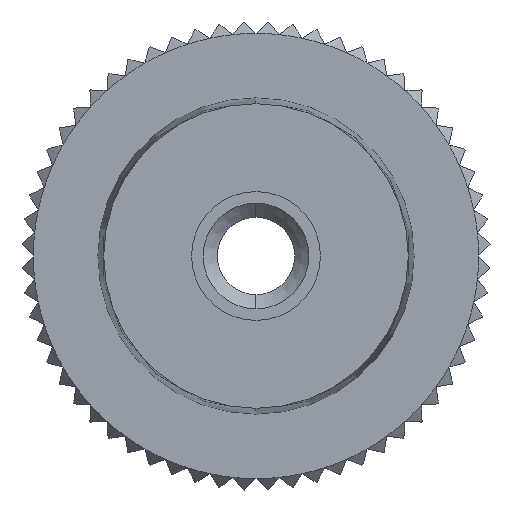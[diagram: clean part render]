
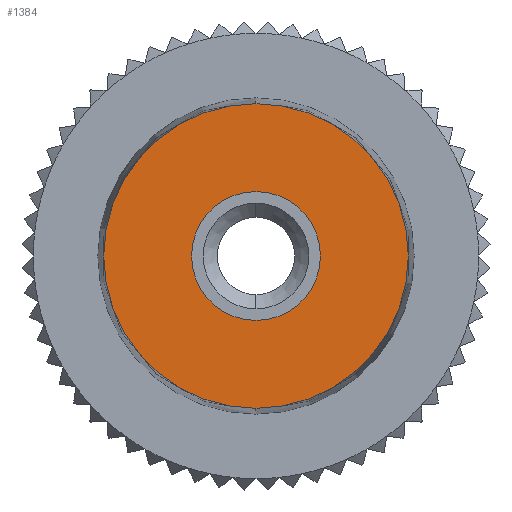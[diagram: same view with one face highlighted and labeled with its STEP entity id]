
A CAD part, front view. The second image highlights one B-rep face of the part: STEP entity #1384.
In plain terms, the highlighted planar face has unit normal (0, -1, 0).
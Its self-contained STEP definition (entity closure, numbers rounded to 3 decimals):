
#107 = VERTEX_POINT ( 'NONE', #2823 ) ;
#110 = VERTEX_POINT ( 'NONE', #2814 ) ;
#113 = EDGE_CURVE ( 'NONE', #110, #107, #2807, .T. ) ;
#174 = VERTEX_POINT ( 'NONE', #2928 ) ;
#178 = VERTEX_POINT ( 'NONE', #2922 ) ;
#193 = EDGE_CURVE ( 'NONE', #178, #174, #2964, .T. ) ;
#1384 = ADVANCED_FACE ( 'NONE', ( #5454, #5453 ), #5452, .T. ) ;
#1385 = EDGE_LOOP ( 'NONE', ( #1386, #1388 ) ) ;
#1386 = ORIENTED_EDGE ( 'NONE', *, *, #1387, .F. ) ;
#1387 = EDGE_CURVE ( 'NONE', #174, #178, #5504, .T. ) ;
#1388 = ORIENTED_EDGE ( 'NONE', *, *, #193, .F. ) ;
#1389 = EDGE_LOOP ( 'NONE', ( #1390, #1451 ) ) ;
#1390 = ORIENTED_EDGE ( 'NONE', *, *, #1391, .T. ) ;
#1391 = EDGE_CURVE ( 'NONE', #107, #110, #5499, .T. ) ;
#1451 = ORIENTED_EDGE ( 'NONE', *, *, #113, .T. ) ;
#2804 = DIRECTION ( 'NONE',  ( 0., 0., -1. ) ) ;
#2805 = DIRECTION ( 'NONE',  ( 0., -1., 0. ) ) ;
#2806 = AXIS2_PLACEMENT_3D ( 'NONE', #2812, #2805, #2804 ) ;
#2807 = CIRCLE ( 'NONE', #2806, 6.5 ) ;
#2812 = CARTESIAN_POINT ( 'NONE',  ( 0., 0., 0. ) ) ;
#2814 = CARTESIAN_POINT ( 'NONE',  ( 0., 0., -6.5 ) ) ;
#2823 = CARTESIAN_POINT ( 'NONE',  ( 0., 0., 6.5 ) ) ;
#2922 = CARTESIAN_POINT ( 'NONE',  ( 0., 0., 2.75 ) ) ;
#2928 = CARTESIAN_POINT ( 'NONE',  ( 0., 0., -2.75 ) ) ;
#2961 = DIRECTION ( 'NONE',  ( 0., 0., -1. ) ) ;
#2962 = DIRECTION ( 'NONE',  ( 0., -1., 0. ) ) ;
#2963 = AXIS2_PLACEMENT_3D ( 'NONE', #2969, #2962, #2961 ) ;
#2964 = CIRCLE ( 'NONE', #2963, 2.75 ) ;
#2969 = CARTESIAN_POINT ( 'NONE',  ( 0., 0., 0. ) ) ;
#5450 = CARTESIAN_POINT ( 'NONE',  ( 0., 0., 0. ) ) ;
#5451 = AXIS2_PLACEMENT_3D ( 'NONE', #5450, #5506, #5505 ) ;
#5452 = PLANE ( 'NONE',  #5451 ) ;
#5453 = FACE_OUTER_BOUND ( 'NONE', #1389, .T. ) ;
#5454 = FACE_BOUND ( 'NONE', #1385, .T. ) ;
#5495 = DIRECTION ( 'NONE',  ( 0., 0., -1. ) ) ;
#5496 = DIRECTION ( 'NONE',  ( 0., -1., 0. ) ) ;
#5497 = CARTESIAN_POINT ( 'NONE',  ( 0., 0., 0. ) ) ;
#5498 = AXIS2_PLACEMENT_3D ( 'NONE', #5497, #5496, #5495 ) ;
#5499 = CIRCLE ( 'NONE', #5498, 6.5 ) ;
#5500 = DIRECTION ( 'NONE',  ( 0., 0., -1. ) ) ;
#5501 = DIRECTION ( 'NONE',  ( 0., -1., 0. ) ) ;
#5502 = CARTESIAN_POINT ( 'NONE',  ( 0., 0., 0. ) ) ;
#5503 = AXIS2_PLACEMENT_3D ( 'NONE', #5502, #5501, #5500 ) ;
#5504 = CIRCLE ( 'NONE', #5503, 2.75 ) ;
#5505 = DIRECTION ( 'NONE',  ( 0., 0., -1. ) ) ;
#5506 = DIRECTION ( 'NONE',  ( 0., -1., 0. ) ) ;
